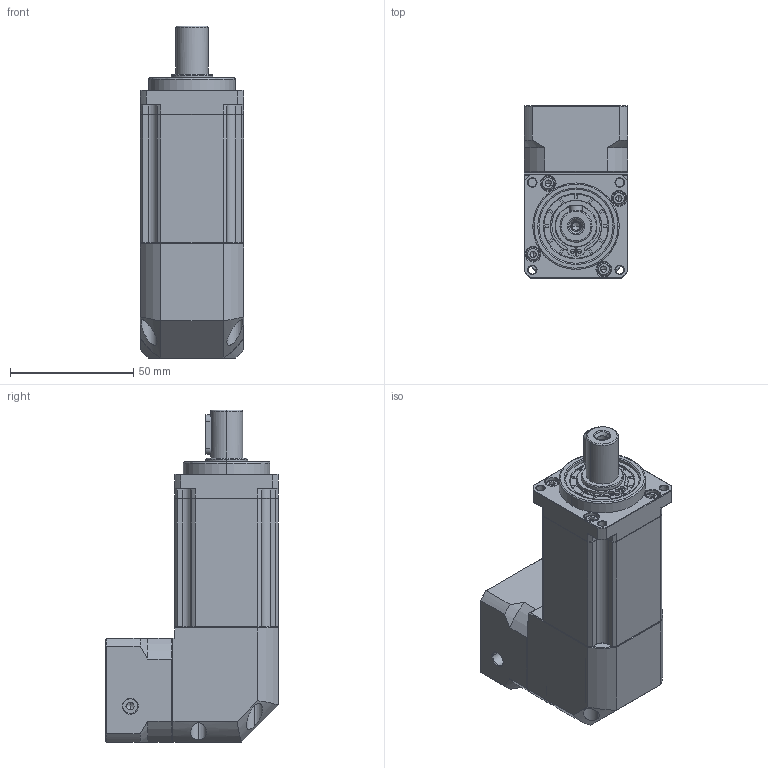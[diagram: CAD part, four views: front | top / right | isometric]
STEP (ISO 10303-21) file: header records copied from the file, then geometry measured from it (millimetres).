
FILE_DESCRIPTION (( 'STEP AP214' ), '1' );
FILE_NAME ('ZBR042-D13-L3-P2-8-30-45-M3.STEP', '2023-08-15T12:21:21', ( '' ), ( '' ), 'SwSTEP 2.0', 'SolidWorks 2016', '' );
FILE_SCHEMA (( 'AUTOMOTIVE_DESIGN' ));
Length unit declared in the file: millimetre
Products named in the file (1): ZBR042-D13-L3-P2-8-30-45-M3
Bounding box: 42 x 70 x 134.5 mm (x, y, z)
Volume: 205446.7 mm3; surface area: 45584.8 mm2
Topology: 7 solids, 7 shells, 2162 faces, 5789 edges, 3729 vertices
Faces by surface type: plane 1062, bspline 420, cylinder 412, cone 268
Entity records: 118351 total; most frequent: CARTESIAN_POINT 44223, ORIENTED_EDGE 11534, DIRECTION 8673, EDGE_CURVE 5767, VERTEX_POINT 3729, LINE 3683, VECTOR 3683, AXIS2_PLACEMENT_3D 2495
